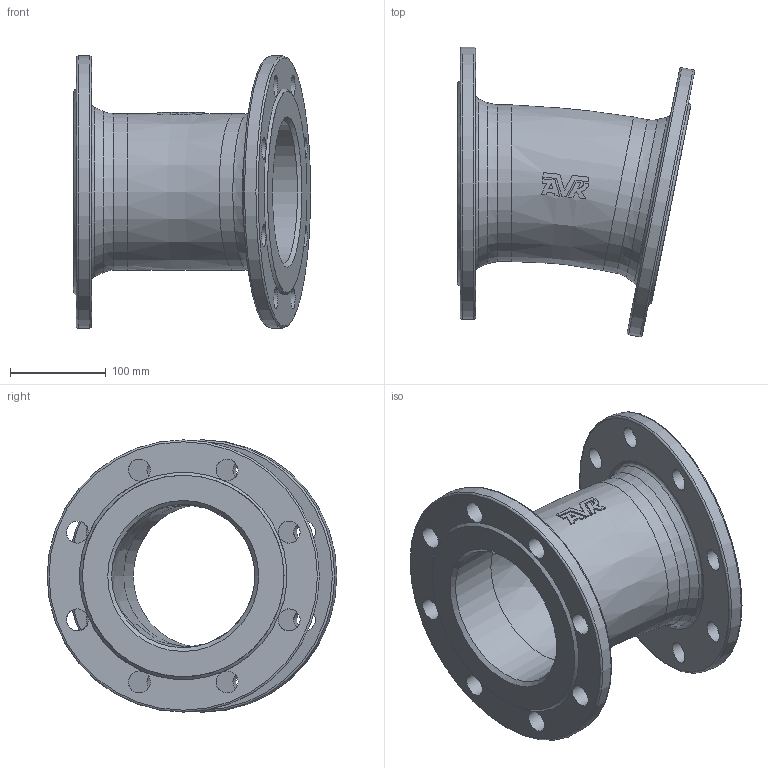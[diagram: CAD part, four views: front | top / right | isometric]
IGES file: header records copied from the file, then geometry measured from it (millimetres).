
Start section: SolidWorks IGES file using analytic representation for surfaces
Global section: file name: \\avksan2\techshare\PBM outline export from Enovia\O_712_0110_DN150_1X_REV01.igs; native system: SolidWorks 2022; preprocessor: SolidWorks 2022; author: pbm; date: 240815.093748; units: millimetre
Bounding box: 248.33 x 303.37 x 285 mm (x, y, z)
Surface area: 404565.4 mm2 (no closed solid volume)
Topology: 0 solids, 0 shells, 85 faces, 433 edges, 379 vertices
Faces by surface type: revolution 44, bspline 41
